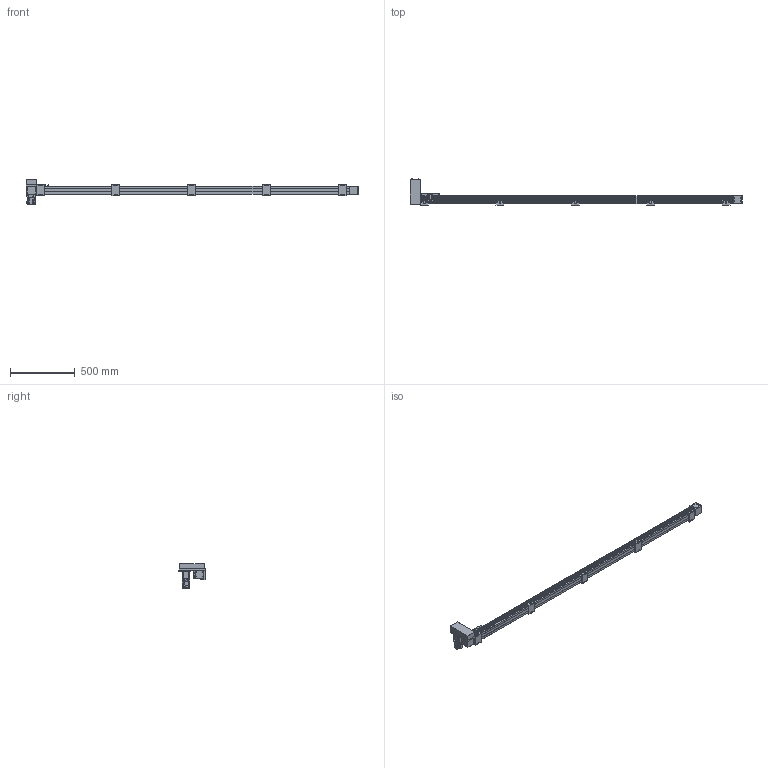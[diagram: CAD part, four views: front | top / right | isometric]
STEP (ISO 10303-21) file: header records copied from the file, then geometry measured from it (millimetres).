
FILE_DESCRIPTION(/* description */ ('STEP AP214'),/* implementation_level */ '2;1');
FILE_NAME(/* name */ 'SK60-P13-S2250-RU-T40-C1-N(0)',/* time_stamp */ '2023-04-06T05:05:21+02:00',/* author */ ('License CC BY-ND 4.0'),/* organization */ ('CADENAS'),/* preprocessor_version */ 'ST-DEVELOPER v19.3',/* originating_system */ 'PARTsolutions',/* authorisation */ ' ');
FILE_SCHEMA (('AUTOMOTIVE_DESIGN {1 0 10303 214 3 1 1}'));
Length unit declared in the file: millimetre
Products named in the file (10): SK60-P13-S2250-RU-T40-C1-N(0); PSC140-sensor; SK60-S450_seat; SK60-S450-BL-C1_slider; SK60_body3; SK60_body6; SK60-BL_body2; T40-p1; SK60-RU_fb; SK60-S2250-RU-C1_body
Assembly tree (19 placements, depth 2):
  SK60-P13-S2250-RU-T40-C1-N(0)
    PSC140-sensor  x3
    SK60-S450_seat  x5
    SK60-S450-BL-C1_slider
    SK60_body3  x3
    SK60_body6  x2
    SK60-BL_body2  x2
    T40-p1
    SK60-RU_fb
    SK60-S2250-RU-C1_body
Bounding box: 2555.5 x 201 x 189.7 mm (x, y, z)
Volume: 9879059.1 mm3; surface area: 1173624.3 mm2
Topology: 19 solids, 19 shells, 942 faces, 2342 edges, 1541 vertices
Faces by surface type: plane 596, cylinder 310, cone 34, torus 2
Full cylindrical faces by diameter (mm): 2.8 x3, 3.3 x4, 4 x2, 4.5 x30, 4.6 x3, 4.917 x28, 5 x6, 5.478 x4, 5.5 x31, 6.5 x10, 7 x2, 8 x4, 8.5 x4, 9.988 x4, 10 x20, 14 x1, 47 x3, 50 x2
Entity records: 18679 total; most frequent: DIRECTION 3190, CARTESIAN_POINT 3153, ORIENTED_EDGE 2940, EDGE_CURVE 1470, AXIS2_PLACEMENT_3D 1071, LINE 1048, VECTOR 1048, VERTEX_POINT 1034
